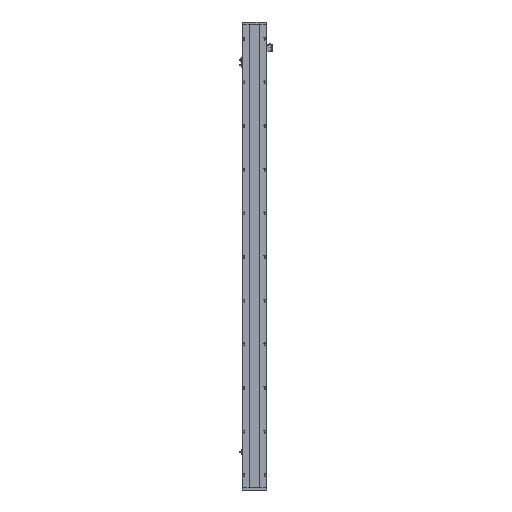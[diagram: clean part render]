
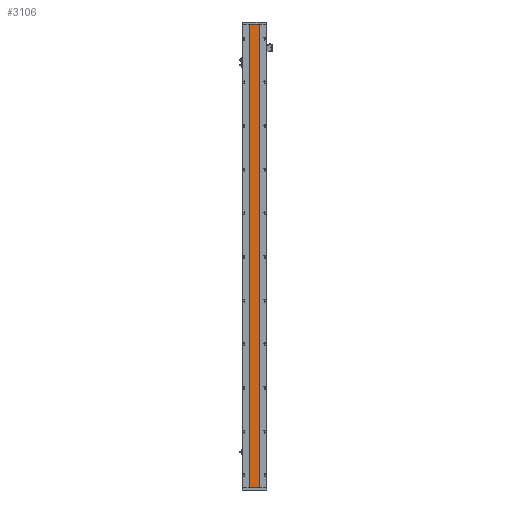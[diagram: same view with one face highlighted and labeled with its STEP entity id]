
A CAD part, front view. The second image highlights one B-rep face of the part: STEP entity #3106.
In plain terms, the highlighted planar face has unit normal (0, -1, 0).
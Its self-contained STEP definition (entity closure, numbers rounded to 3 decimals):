
#266 = VECTOR ( 'NONE', #27561, 1000. ) ;
#2134 = VECTOR ( 'NONE', #2661, 1000. ) ;
#2154 = LINE ( 'NONE', #3619, #266 ) ;
#2213 = AXIS2_PLACEMENT_3D ( 'NONE', #25558, #18134, #3935 ) ;
#2661 = DIRECTION ( 'NONE',  ( 1., 0., 0. ) ) ;
#2968 = CARTESIAN_POINT ( 'NONE',  ( 0., 115.96, 2296. ) ) ;
#3106 = ADVANCED_FACE ( 'NONE', ( #6121 ), #10932, .F. ) ;
#3619 = CARTESIAN_POINT ( 'NONE',  ( 133.07, 115.96, 2296. ) ) ;
#3935 = DIRECTION ( 'NONE',  ( -1., 0., 0. ) ) ;
#6121 = FACE_OUTER_BOUND ( 'NONE', #6814, .T. ) ;
#6565 = CARTESIAN_POINT ( 'NONE',  ( 133.07, 115.96, 2296. ) ) ;
#6814 = EDGE_LOOP ( 'NONE', ( #30651, #14198, #14585, #15795 ) ) ;
#7487 = EDGE_CURVE ( 'NONE', #29451, #23332, #24116, .T. ) ;
#10084 = DIRECTION ( 'NONE',  ( 1., 0., 0. ) ) ;
#10932 = PLANE ( 'NONE',  #2213 ) ;
#12110 = CARTESIAN_POINT ( 'NONE',  ( 0., 115.96, 0. ) ) ;
#14198 = ORIENTED_EDGE ( 'NONE', *, *, #25576, .F. ) ;
#14585 = ORIENTED_EDGE ( 'NONE', *, *, #29540, .F. ) ;
#15795 = ORIENTED_EDGE ( 'NONE', *, *, #18110, .T. ) ;
#18110 = EDGE_CURVE ( 'NONE', #21932, #29451, #2154, .T. ) ;
#18134 = DIRECTION ( 'NONE',  ( 0., 1., 0. ) ) ;
#19704 = VECTOR ( 'NONE', #26490, 1000. ) ;
#21371 = LINE ( 'NONE', #2968, #28601 ) ;
#21932 = VERTEX_POINT ( 'NONE', #6565 ) ;
#23332 = VERTEX_POINT ( 'NONE', #29572 ) ;
#24116 = LINE ( 'NONE', #12110, #2134 ) ;
#25558 = CARTESIAN_POINT ( 'NONE',  ( 0., 115.96, 2296. ) ) ;
#25576 = EDGE_CURVE ( 'NONE', #29981, #23332, #31127, .T. ) ;
#26490 = DIRECTION ( 'NONE',  ( 0., 0., -1. ) ) ;
#27561 = DIRECTION ( 'NONE',  ( 0., 0., -1. ) ) ;
#28601 = VECTOR ( 'NONE', #10084, 1000. ) ;
#28610 = CARTESIAN_POINT ( 'NONE',  ( 183.063, 115.96, 2296. ) ) ;
#28626 = CARTESIAN_POINT ( 'NONE',  ( 183.063, 115.96, 2296. ) ) ;
#29069 = CARTESIAN_POINT ( 'NONE',  ( 133.07, 115.96, 0. ) ) ;
#29451 = VERTEX_POINT ( 'NONE', #29069 ) ;
#29540 = EDGE_CURVE ( 'NONE', #21932, #29981, #21371, .T. ) ;
#29572 = CARTESIAN_POINT ( 'NONE',  ( 183.063, 115.96, 0. ) ) ;
#29981 = VERTEX_POINT ( 'NONE', #28626 ) ;
#30651 = ORIENTED_EDGE ( 'NONE', *, *, #7487, .T. ) ;
#31127 = LINE ( 'NONE', #28610, #19704 ) ;
